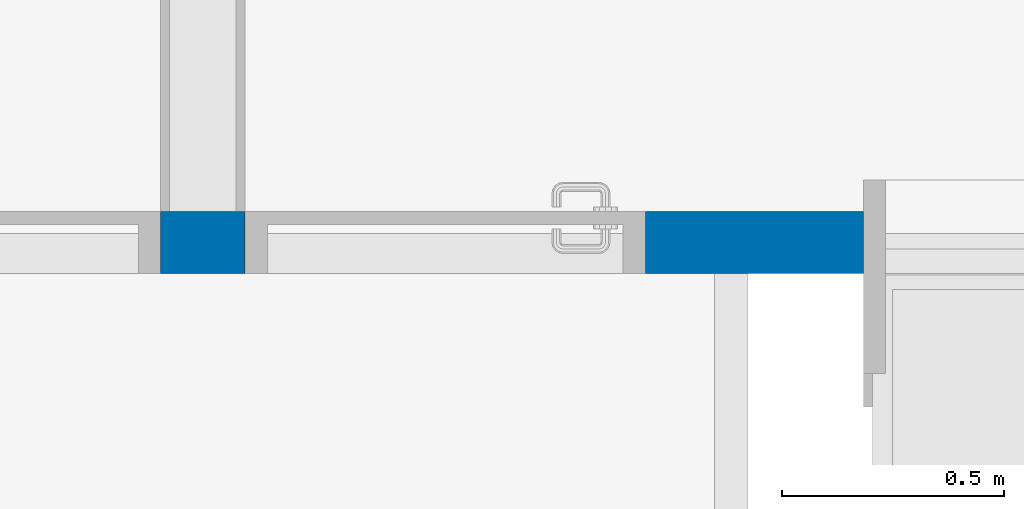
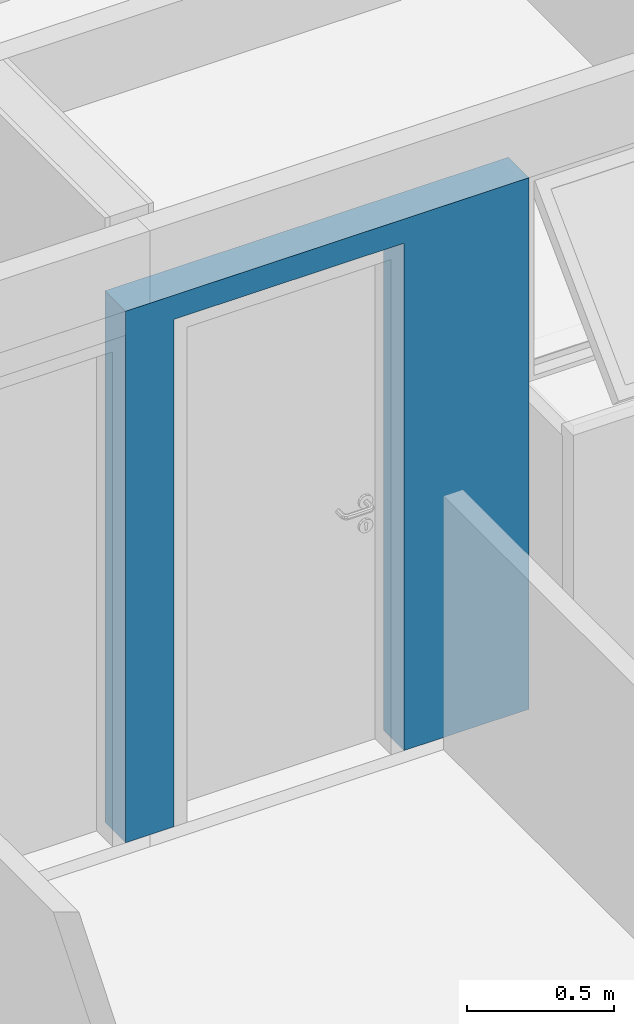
# One storey, part 21 of 37: 1 wall, 1 opening.
"""IFC2X3 building model written with IfcOpenShell, lengths in millimetres."""

from ifc_helpers import new_model, entity, si_unit, converted_unit, derived_unit, money_unit, direction, frame, origin_with_axes, origin_2d_with_axis, place, context, subcontext, project, spatial, polyline, rectangle, outline, extrude, material, layer, layer_set, layer_usage, type_object, element, save


model = new_model("IFC2X3")

# Units and contexts
model_context = context("Model", 3, precision=0.01, world=origin_with_axes(), true_north=direction((0.0, 1.0)))
body_context = subcontext(model_context, "Body", "Model", "MODEL_VIEW")
ifc_project = project(units=[si_unit("LENGTHUNIT", "METRE", prefix="MILLI"), si_unit("AREAUNIT", "SQUARE_METRE"), si_unit("VOLUMEUNIT", "CUBIC_METRE"), converted_unit("PLANEANGLEUNIT", "DEGREE", entity("IfcPlaneAngleMeasure", 0.0174532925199), si_unit("PLANEANGLEUNIT", "RADIAN"), dimensions=[0, 0, 0, 0, 0, 0, 0]), money_unit("USD"), converted_unit("TIMEUNIT", "Year", entity("IfcTimeMeasure", 31556926.0), si_unit("TIMEUNIT", "SECOND"), dimensions=[0, 0, 1, 0, 0, 0, 0]), si_unit("MASSUNIT", "GRAM", prefix="KILO"), si_unit("THERMODYNAMICTEMPERATUREUNIT", "DEGREE_CELSIUS"), si_unit("LUMINOUSINTENSITYUNIT", "LUMEN"), si_unit("ENERGYUNIT", "JOULE", prefix="MEGA"), derived_unit("THERMALCONDUCTANCEUNIT", [(si_unit("POWERUNIT", "WATT"), 1), (si_unit("LENGTHUNIT", "METRE"), -1), (si_unit("THERMODYNAMICTEMPERATUREUNIT", "KELVIN"), -1)]), derived_unit("SPECIFICHEATCAPACITYUNIT", [(si_unit("ENERGYUNIT", "JOULE"), 1), (si_unit("MASSUNIT", "GRAM", prefix="KILO"), -1), (si_unit("THERMODYNAMICTEMPERATUREUNIT", "KELVIN"), -1)]), derived_unit("MASSDENSITYUNIT", [(si_unit("MASSUNIT", "GRAM", prefix="KILO"), 1), (si_unit("VOLUMEUNIT", "CUBIC_METRE"), -1)])], contexts=[model_context])

# Site, building, storey
site_placement = place(None, origin_with_axes())
site = spatial("IfcSite", under=ifc_project, at=site_placement, Name="Local", CompositionType="ELEMENT")
building_placement = place(site_placement, origin_with_axes())
building = spatial("IfcBuilding", under=site, at=building_placement, Name="Construção", CompositionType="ELEMENT")
storey_placement = place(building_placement, origin_with_axes())
storey = spatial("IfcBuildingStorey", under=building, at=storey_placement, Name="Primeiro Pavimento", CompositionType="ELEMENT", Elevation=0.0)

# Wall, opening
ifc_material = material(Name="GENÉRICO - VEDAÇÃO EXTERNA")
ifc_layer = layer(ifc_material, 140.0, ventilated="UNKNOWN")
ifc_layer_set = layer_set([ifc_layer], Name="GENÉRICO - VEDAÇÃO EXTERNA 140")
ifc_layer_usage = layer_usage(ifc_layer_set, "AXIS2", "NEGATIVE", 0.0)
wall_type = type_object("IfcWallType", Name="GENÉRICO - VEDAÇÃO EXTERNA 140", PredefinedType="NOTDEFINED")
wall_placement = place(storey_placement, frame((7290.0, 18035.0, 0.0), z_axis=(0.0, 0.0, 1.0), x_axis=(1.0, 0.0, 0.0)))
wall = element("IfcWallStandardCase", 1, at=wall_placement, inside=storey, type_object=wall_type, material=ifc_layer_usage, Name="APTO4-PAREDE-004", context=body_context, shape_type="SweptSolid", body=[
    extrude(outline(polyline([(0.0, -140.0), (1580.0, -140.0), (1580.0, 0.0), (0.0, 0.0), (0.0, -140.0)])), origin_with_axes(), (0.0, 0.0, 1.0), 2200.0),
])
opening_placement = place(wall_placement, frame((640.0, 0.0, 0.0), z_axis=(0.0, 0.0, 1.0), x_axis=(1.0, 0.0, 0.0)))
element("IfcOpeningElement", 2, at=opening_placement, cuts=wall, Name="APTO4-PORTA-004", context=body_context, shape_type="SweptSolid", body=[
    extrude(rectangle(XDim=900.0, YDim=2100.0, at=origin_2d_with_axis()), frame((0.0, 140.0, 1050.0), z_axis=(0.0, 1.0, 0.0), x_axis=(-1.0, 0.0, 0.0)), (0.0, 0.0, -1.0), 420.0),
])

save(model, "model.ifc")
